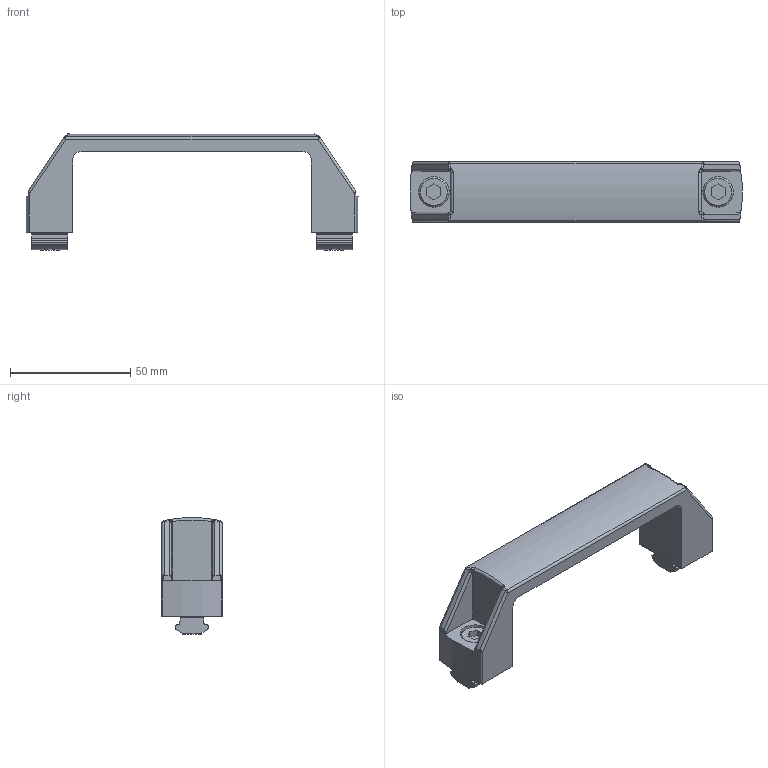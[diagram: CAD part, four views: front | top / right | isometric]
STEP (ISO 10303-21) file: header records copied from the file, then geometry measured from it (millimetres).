
FILE_DESCRIPTION(('STEP AP214'),'1');
FILE_NAME('HCP2.stp','2018-07-23T10:03:49',(' '),(' '),'Spatial InterOp 3D',' ',' ');
FILE_SCHEMA(('automotive_design'));
Length unit declared in the file: millimetre
Products named in the file (4): HCP2
Assembly tree (5 placements, depth 2):
  HCP2
    HCP2
    (unnamed)  x2
    (unnamed)  x2
Bounding box: 137.78 x 25 x 48.43 mm (x, y, z)
Volume: 40304.1 mm3; surface area: 18686.6 mm2
Topology: 5 solids, 5 shells, 164 faces, 418 edges, 256 vertices
Faces by surface type: plane 71, cylinder 55, bspline 24, sphere 8, cone 4, torus 2
Full cylindrical faces by diameter (mm): 8 x2, 9 x2, 12.7 x2, 12.85 x2
Entity records: 6255 total; most frequent: CARTESIAN_POINT 2547, DIRECTION 612, ORIENTED_EDGE 600, EDGE_CURVE 300, AXIS2_PLACEMENT_3D 237, VERTEX_POINT 190, EDGE_LOOP 144, LINE 138
